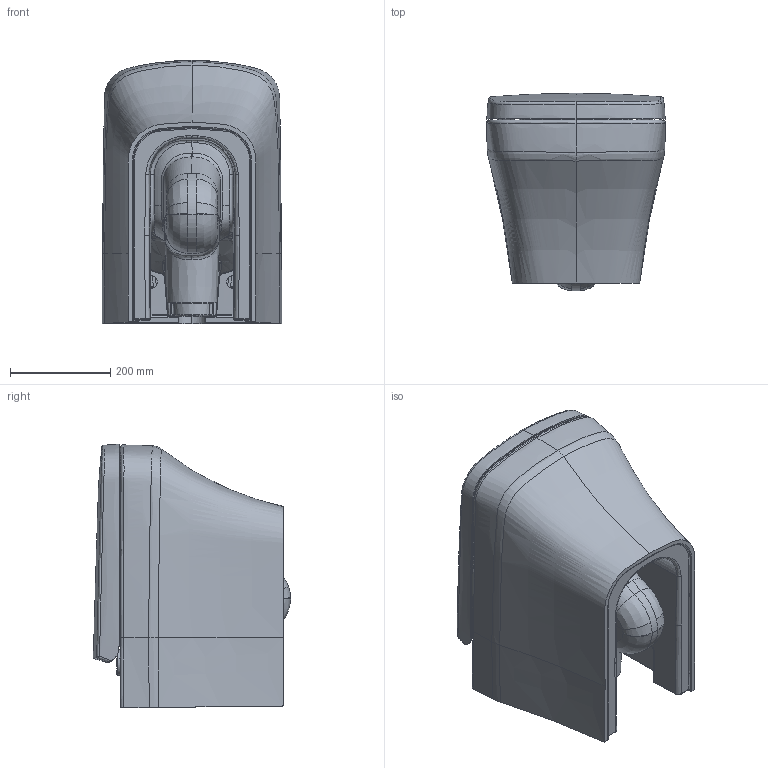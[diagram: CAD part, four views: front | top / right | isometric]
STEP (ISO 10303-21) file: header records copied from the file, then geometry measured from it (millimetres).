
FILE_DESCRIPTION (( 'STEP AP203' ), '1' );
FILE_NAME ('SO321-00CB00E-0000.STEP', '2022-05-11T10:47:40', ( '' ), ( '' ), 'SwSTEP 2.0', 'SolidWorks 2021', '' );
FILE_SCHEMA (( 'CONFIG_CONTROL_DESIGN' ));
Products named in the file (1): SO321-00CB00E-0000
Bounding box: 359.33 x 394.27 x 526.09 mm (x, y, z)
Volume: 24912479.3 mm3; surface area: 1915500 mm2
Topology: 25 solids, 28 shells, 1621 faces, 3986 edges, 2425 vertices
Faces by surface type: bspline 798, cylinder 333, plane 331, cone 98, torus 37, sphere 24
Entity records: 257907 total; most frequent: CARTESIAN_POINT 226295, ORIENTED_EDGE 7814, DIRECTION 4745, EDGE_CURVE 3907, VERTEX_POINT 2423, AXIS2_PLACEMENT_3D 1934, EDGE_LOOP 1738, B_SPLINE_CURVE_WITH_KNOTS 1699
